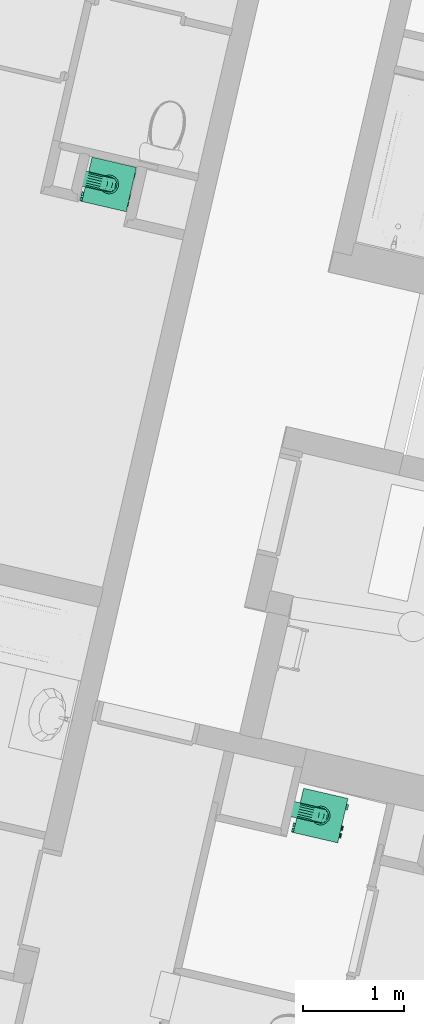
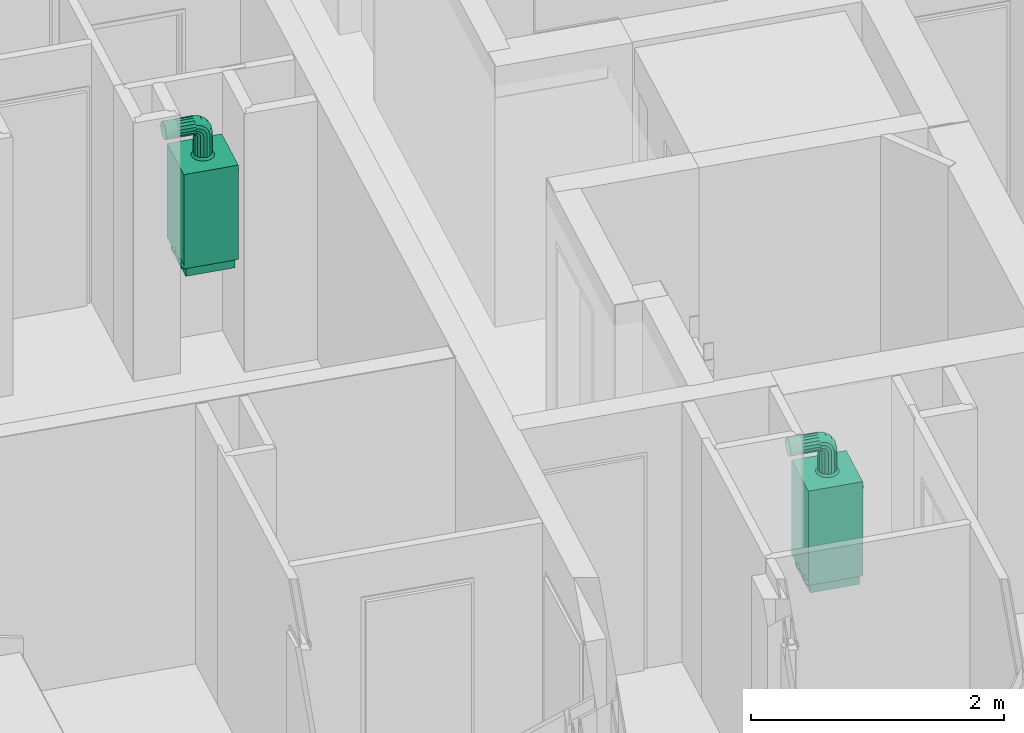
# One storey, part 45 of 62: 2 energy conversion devices.
"""IFC2X3 building model written with IfcOpenShell, lengths in metres."""

from ifc_helpers import new_model, entity, si_unit, converted_unit, derived_unit, money_unit, direction, frame, origin_with_axes, place, context, subcontext, project, spatial, open_shell, faceted_brep, surface_model, source, transform, mapped, type_object, element, save


model = new_model("IFC2X3")

# Units and contexts
model_context = context("Model", 3, precision=1e-05, world=origin_with_axes(), true_north=direction((0.0, 1.0)))
body_context = subcontext(model_context, "Body", "Model", "MODEL_VIEW")
ifc_project = project(units=[si_unit("LENGTHUNIT", "METRE"), si_unit("AREAUNIT", "SQUARE_METRE"), si_unit("VOLUMEUNIT", "CUBIC_METRE"), converted_unit("PLANEANGLEUNIT", "DEGREE", entity("IfcPlaneAngleMeasure", 0.0174532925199), si_unit("PLANEANGLEUNIT", "RADIAN"), dimensions=[0, 0, 0, 0, 0, 0, 0]), si_unit("SOLIDANGLEUNIT", "STERADIAN"), money_unit("EUR"), converted_unit("TIMEUNIT", "Year", entity("IfcTimeMeasure", 31556926.0), si_unit("TIMEUNIT", "SECOND"), dimensions=[0, 0, 1, 0, 0, 0, 0]), si_unit("MASSUNIT", "GRAM", prefix="KILO"), si_unit("THERMODYNAMICTEMPERATUREUNIT", "DEGREE_CELSIUS"), si_unit("LUMINOUSINTENSITYUNIT", "LUMEN"), si_unit("ENERGYUNIT", "JOULE", prefix="MEGA"), derived_unit("THERMALCONDUCTANCEUNIT", [(si_unit("POWERUNIT", "WATT"), 1), (si_unit("LENGTHUNIT", "METRE"), -1), (si_unit("THERMODYNAMICTEMPERATUREUNIT", "KELVIN"), -1)]), derived_unit("SPECIFICHEATCAPACITYUNIT", [(si_unit("ENERGYUNIT", "JOULE"), 1), (si_unit("MASSUNIT", "GRAM", prefix="KILO"), -1), (si_unit("THERMODYNAMICTEMPERATUREUNIT", "KELVIN"), -1)]), derived_unit("MASSDENSITYUNIT", [(si_unit("MASSUNIT", "GRAM", prefix="KILO"), 1), (si_unit("VOLUMEUNIT", "CUBIC_METRE"), -1)])], contexts=[model_context])

# Site, building, storey
site_placement = place(None, origin_with_axes())
site = spatial("IfcSite", under=ifc_project, at=site_placement, Name="Site", CompositionType="ELEMENT")
building_placement = place(site_placement, origin_with_axes())
building = spatial("IfcBuilding", under=site, at=building_placement, Name="Bâtiment", CompositionType="ELEMENT")
storey_placement = place(building_placement, frame((0.0, 0.0, 8.16), z_axis=(0.0, 0.0, 1.0), x_axis=(1.0, 0.0, 0.0)))
storey = spatial("IfcBuildingStorey", under=building, at=storey_placement, Name="R+3", CompositionType="ELEMENT", Elevation=8.16)

# Energy conversion devices
boiler_type = type_object("IfcBoilerType", Name="Chaudière à gaz 23", PredefinedType="WATER")
shared_shape = source(origin_with_axes(), body_context, "Body", "SurfaceModel", [
    surface_model("IfcShellBasedSurfaceModel", [(-0.2, 0.45, 0.090909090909), (-0.2, 0.47, 0.090909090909), (-0.194564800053, 0.47, 0.0916246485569), (-0.194564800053, 0.45, 0.0916246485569), (-0.205435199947, 0.45, 0.0916246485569), (-0.205435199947, 0.47, 0.0916246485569), (-0.1895, 0.47, 0.0937225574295), (-0.1895, 0.45, 0.0937225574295), (-0.2105, 0.45, 0.0937225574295), (-0.2105, 0.47, 0.0937225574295), (-0.185150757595, 0.47, 0.0970598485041), (-0.185150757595, 0.45, 0.0970598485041), (-0.214849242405, 0.45, 0.0970598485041), (-0.214849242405, 0.47, 0.0970598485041), (-0.181813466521, 0.47, 0.101409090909), (-0.181813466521, 0.45, 0.101409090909), (-0.218186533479, 0.45, 0.101409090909), (-0.218186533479, 0.47, 0.101409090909), (-0.179715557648, 0.47, 0.106473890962), (-0.179715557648, 0.45, 0.106473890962), (-0.220284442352, 0.45, 0.106473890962), (-0.220284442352, 0.47, 0.106473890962), (-0.179, 0.47, 0.111909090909), (-0.179, 0.45, 0.111909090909), (-0.221, 0.45, 0.111909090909), (-0.221, 0.47, 0.111909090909), (-0.179715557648, 0.47, 0.117344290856), (-0.179715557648, 0.45, 0.117344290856), (-0.220284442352, 0.45, 0.117344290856), (-0.220284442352, 0.47, 0.117344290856), (-0.181813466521, 0.47, 0.122409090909), (-0.181813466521, 0.45, 0.122409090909), (-0.218186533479, 0.45, 0.122409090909), (-0.218186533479, 0.47, 0.122409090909), (-0.185150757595, 0.47, 0.126758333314), (-0.185150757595, 0.45, 0.126758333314), (-0.214849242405, 0.45, 0.126758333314), (-0.214849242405, 0.47, 0.126758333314), (-0.1895, 0.47, 0.130095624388), (-0.1895, 0.45, 0.130095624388), (-0.2105, 0.45, 0.130095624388), (-0.2105, 0.47, 0.130095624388), (-0.194564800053, 0.47, 0.132193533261), (-0.194564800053, 0.45, 0.132193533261), (-0.205435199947, 0.45, 0.132193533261), (-0.205435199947, 0.47, 0.132193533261), (-0.2, 0.47, 0.132909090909), (-0.2, 0.45, 0.132909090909)], [open_shell([[[0, 1, 2, 3]], [[4, 5, 1, 0]], [[3, 2, 6, 7]], [[8, 9, 5, 4]], [[7, 6, 10, 11]], [[12, 13, 9, 8]], [[11, 10, 14, 15]], [[16, 17, 13, 12]], [[15, 14, 18, 19]], [[20, 21, 17, 16]], [[19, 18, 22, 23]], [[24, 25, 21, 20]], [[23, 22, 26, 27]], [[28, 29, 25, 24]], [[27, 26, 30, 31]], [[32, 33, 29, 28]], [[31, 30, 34, 35]], [[36, 37, 33, 32]], [[35, 34, 38, 39]], [[40, 41, 37, 36]], [[39, 38, 42, 43]], [[44, 45, 41, 40]], [[43, 42, 46, 47]], [[47, 46, 45, 44]]])]),
    surface_model("IfcShellBasedSurfaceModel", [(-0.375, 0.45, 0.090909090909), (-0.375, 0.47, 0.090909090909), (-0.369564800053, 0.47, 0.0916246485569), (-0.369564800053, 0.45, 0.0916246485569), (-0.380435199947, 0.45, 0.0916246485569), (-0.380435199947, 0.47, 0.0916246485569), (-0.3645, 0.47, 0.0937225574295), (-0.3645, 0.45, 0.0937225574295), (-0.3855, 0.45, 0.0937225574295), (-0.3855, 0.47, 0.0937225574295), (-0.360150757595, 0.47, 0.0970598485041), (-0.360150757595, 0.45, 0.0970598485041), (-0.389849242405, 0.45, 0.0970598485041), (-0.389849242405, 0.47, 0.0970598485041), (-0.356813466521, 0.47, 0.101409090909), (-0.356813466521, 0.45, 0.101409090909), (-0.393186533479, 0.45, 0.101409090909), (-0.393186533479, 0.47, 0.101409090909), (-0.354715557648, 0.47, 0.106473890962), (-0.354715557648, 0.45, 0.106473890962), (-0.395284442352, 0.45, 0.106473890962), (-0.395284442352, 0.47, 0.106473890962), (-0.354, 0.47, 0.111909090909), (-0.354, 0.45, 0.111909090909), (-0.396, 0.45, 0.111909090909), (-0.396, 0.47, 0.111909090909), (-0.354715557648, 0.47, 0.117344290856), (-0.354715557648, 0.45, 0.117344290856), (-0.395284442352, 0.45, 0.117344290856), (-0.395284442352, 0.47, 0.117344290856), (-0.356813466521, 0.47, 0.122409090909), (-0.356813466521, 0.45, 0.122409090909), (-0.393186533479, 0.45, 0.122409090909), (-0.393186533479, 0.47, 0.122409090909), (-0.360150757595, 0.47, 0.126758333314), (-0.360150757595, 0.45, 0.126758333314), (-0.389849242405, 0.45, 0.126758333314), (-0.389849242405, 0.47, 0.126758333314), (-0.3645, 0.47, 0.130095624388), (-0.3645, 0.45, 0.130095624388), (-0.3855, 0.45, 0.130095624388), (-0.3855, 0.47, 0.130095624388), (-0.369564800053, 0.47, 0.132193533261), (-0.369564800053, 0.45, 0.132193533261), (-0.380435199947, 0.45, 0.132193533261), (-0.380435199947, 0.47, 0.132193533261), (-0.375, 0.47, 0.132909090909), (-0.375, 0.45, 0.132909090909)], [open_shell([[[0, 1, 2, 3]], [[4, 5, 1, 0]], [[3, 2, 6, 7]], [[8, 9, 5, 4]], [[7, 6, 10, 11]], [[12, 13, 9, 8]], [[11, 10, 14, 15]], [[16, 17, 13, 12]], [[15, 14, 18, 19]], [[20, 21, 17, 16]], [[19, 18, 22, 23]], [[24, 25, 21, 20]], [[23, 22, 26, 27]], [[28, 29, 25, 24]], [[27, 26, 30, 31]], [[32, 33, 29, 28]], [[31, 30, 34, 35]], [[36, 37, 33, 32]], [[35, 34, 38, 39]], [[40, 41, 37, 36]], [[39, 38, 42, 43]], [[44, 45, 41, 40]], [[43, 42, 46, 47]], [[47, 46, 45, 44]]])]),
    surface_model("IfcShellBasedSurfaceModel", [(-0.429, 0.45, 0.090909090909), (-0.429, 0.47, 0.090909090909), (-0.423564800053, 0.47, 0.0916246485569), (-0.423564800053, 0.45, 0.0916246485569), (-0.434435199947, 0.45, 0.0916246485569), (-0.434435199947, 0.47, 0.0916246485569), (-0.4185, 0.47, 0.0937225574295), (-0.4185, 0.45, 0.0937225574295), (-0.4395, 0.45, 0.0937225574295), (-0.4395, 0.47, 0.0937225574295), (-0.414150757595, 0.47, 0.0970598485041), (-0.414150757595, 0.45, 0.0970598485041), (-0.443849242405, 0.45, 0.0970598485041), (-0.443849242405, 0.47, 0.0970598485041), (-0.410813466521, 0.47, 0.101409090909), (-0.410813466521, 0.45, 0.101409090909), (-0.447186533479, 0.45, 0.101409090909), (-0.447186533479, 0.47, 0.101409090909), (-0.408715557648, 0.47, 0.106473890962), (-0.408715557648, 0.45, 0.106473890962), (-0.449284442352, 0.45, 0.106473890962), (-0.449284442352, 0.47, 0.106473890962), (-0.408, 0.47, 0.111909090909), (-0.408, 0.45, 0.111909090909), (-0.45, 0.45, 0.111909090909), (-0.45, 0.47, 0.111909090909), (-0.408715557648, 0.47, 0.117344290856), (-0.408715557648, 0.45, 0.117344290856), (-0.449284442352, 0.45, 0.117344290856), (-0.449284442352, 0.47, 0.117344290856), (-0.410813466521, 0.47, 0.122409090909), (-0.410813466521, 0.45, 0.122409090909), (-0.447186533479, 0.45, 0.122409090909), (-0.447186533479, 0.47, 0.122409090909), (-0.414150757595, 0.47, 0.126758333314), (-0.414150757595, 0.45, 0.126758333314), (-0.443849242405, 0.45, 0.126758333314), (-0.443849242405, 0.47, 0.126758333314), (-0.4185, 0.47, 0.130095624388), (-0.4185, 0.45, 0.130095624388), (-0.4395, 0.45, 0.130095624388), (-0.4395, 0.47, 0.130095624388), (-0.423564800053, 0.47, 0.132193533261), (-0.423564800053, 0.45, 0.132193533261), (-0.434435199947, 0.45, 0.132193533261), (-0.434435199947, 0.47, 0.132193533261), (-0.429, 0.47, 0.132909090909), (-0.429, 0.45, 0.132909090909)], [open_shell([[[0, 1, 2, 3]], [[4, 5, 1, 0]], [[3, 2, 6, 7]], [[8, 9, 5, 4]], [[7, 6, 10, 11]], [[12, 13, 9, 8]], [[11, 10, 14, 15]], [[16, 17, 13, 12]], [[15, 14, 18, 19]], [[20, 21, 17, 16]], [[19, 18, 22, 23]], [[24, 25, 21, 20]], [[23, 22, 26, 27]], [[28, 29, 25, 24]], [[27, 26, 30, 31]], [[32, 33, 29, 28]], [[31, 30, 34, 35]], [[36, 37, 33, 32]], [[35, 34, 38, 39]], [[40, 41, 37, 36]], [[39, 38, 42, 43]], [[44, 45, 41, 40]], [[43, 42, 46, 47]], [[47, 46, 45, 44]]])]),
    surface_model("IfcShellBasedSurfaceModel", [(-0.225, 0.45, 1.218), (-0.225, 0.55, 1.218), (-0.205070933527, 0.55, 1.22062371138), (-0.205070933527, 0.45, 1.22062371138), (-0.244929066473, 0.45, 1.22062371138), (-0.244929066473, 0.55, 1.22062371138), (-0.1865, 0.55, 1.22831604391), (-0.1865, 0.45, 1.22831604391), (-0.2635, 0.45, 1.22831604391), (-0.2635, 0.55, 1.22831604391), (-0.170552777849, 0.55, 1.24055277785), (-0.170552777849, 0.45, 1.24055277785), (-0.279447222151, 0.45, 1.24055277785), (-0.279447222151, 0.55, 1.24055277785), (-0.158316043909, 0.55, 1.2565), (-0.158316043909, 0.45, 1.2565), (-0.291683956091, 0.45, 1.2565), (-0.291683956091, 0.55, 1.2565), (-0.150623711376, 0.55, 1.27507093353), (-0.150623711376, 0.45, 1.27507093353), (-0.299376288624, 0.45, 1.27507093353), (-0.299376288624, 0.55, 1.27507093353), (-0.148, 0.55, 1.295), (-0.148, 0.45, 1.295), (-0.302, 0.45, 1.295), (-0.302, 0.55, 1.295), (-0.150623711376, 0.55, 1.31492906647), (-0.150623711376, 0.45, 1.31492906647), (-0.299376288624, 0.45, 1.31492906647), (-0.299376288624, 0.55, 1.31492906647), (-0.158316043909, 0.55, 1.3335), (-0.158316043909, 0.45, 1.3335), (-0.291683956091, 0.45, 1.3335), (-0.291683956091, 0.55, 1.3335), (-0.170552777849, 0.55, 1.34944722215), (-0.170552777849, 0.45, 1.34944722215), (-0.279447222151, 0.45, 1.34944722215), (-0.279447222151, 0.55, 1.34944722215), (-0.1865, 0.55, 1.36168395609), (-0.1865, 0.45, 1.36168395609), (-0.2635, 0.45, 1.36168395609), (-0.2635, 0.55, 1.36168395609), (-0.205070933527, 0.55, 1.36937628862), (-0.205070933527, 0.45, 1.36937628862), (-0.244929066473, 0.45, 1.36937628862), (-0.244929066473, 0.55, 1.36937628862), (-0.225, 0.55, 1.372), (-0.225, 0.45, 1.372)], [open_shell([[[0, 1, 2, 3]], [[4, 5, 1, 0]], [[3, 2, 6, 7]], [[8, 9, 5, 4]], [[7, 6, 10, 11]], [[12, 13, 9, 8]], [[11, 10, 14, 15]], [[16, 17, 13, 12]], [[15, 14, 18, 19]], [[20, 21, 17, 16]], [[19, 18, 22, 23]], [[24, 25, 21, 20]], [[23, 22, 26, 27]], [[28, 29, 25, 24]], [[27, 26, 30, 31]], [[32, 33, 29, 28]], [[31, 30, 34, 35]], [[36, 37, 33, 32]], [[35, 34, 38, 39]], [[40, 41, 37, 36]], [[39, 38, 42, 43]], [[44, 45, 41, 40]], [[43, 42, 46, 47]], [[47, 46, 45, 44]]])]),
    faceted_brep([(-0.4275, 0.0225, 0.0), (-0.4275, 0.4275, 0.0), (-0.0225, 0.4275, 0.0), (-0.0225, 0.0225, 0.0), (-0.4275, 0.0225, 0.0909090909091), (-0.4275, 0.4275, 0.0909090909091), (-0.0225, 0.4275, 0.0909090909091), (-0.0225, 0.0225, 0.0909090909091)], [[[0, 1, 2, 3]], [[0, 4, 5, 1]], [[1, 5, 6, 2]], [[2, 6, 7, 3]], [[3, 7, 4, 0]], [[7, 6, 5, 4]]]),
    faceted_brep([(0.0, 0.45, 0.0909090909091), (-0.45, 0.45, 0.0909090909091), (-0.45, 0.45, 1.0), (0.0, 0.45, 1.0), (0.0, 0.0, 0.0909090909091), (-0.45, 0.0, 0.0909090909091), (-0.45, 0.0, 0.818181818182), (-0.45, 0.0225, 0.818181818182), (-0.45, 0.0225, 1.0), (0.0, 0.0225, 1.0), (0.0, 0.0225, 0.818181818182), (0.0, 0.0, 0.818181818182)], [[[0, 1, 2, 3]], [[4, 5, 1, 0]], [[1, 5, 6, 7, 8, 2]], [[3, 2, 8, 9]], [[0, 3, 9, 10, 11, 4]], [[11, 6, 5, 4]], [[10, 7, 6, 11]], [[9, 8, 7, 10]]]),
    faceted_brep([(-0.45, 0.0, 0.818181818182), (-0.45, 0.0225, 0.818181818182), (0.0, 0.0225, 0.818181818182), (0.0, 0.0, 0.818181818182), (-0.45, 0.0, 1.0), (-0.45, 0.0225, 1.0), (0.0, 0.0225, 1.0), (0.0, 0.0, 1.0)], [[[0, 1, 2, 3]], [[0, 4, 5, 1]], [[1, 5, 6, 2]], [[2, 6, 7, 3]], [[3, 7, 4, 0]], [[7, 6, 5, 4]]]),
    faceted_brep([(-0.32349231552, 0.0, 0.900540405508), (-0.325, 0.0, 0.909090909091), (-0.32349231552, 0.0, 0.917641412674), (-0.319151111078, 0.0, 0.925160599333), (-0.3125, 0.0, 0.930741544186), (-0.304341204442, 0.0, 0.933711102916), (-0.295658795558, 0.0, 0.933711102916), (-0.2875, 0.0, 0.930741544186), (-0.280848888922, 0.0, 0.925160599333), (-0.27650768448, 0.0, 0.917641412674), (-0.275, 0.0, 0.909090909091), (-0.27650768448, 0.0, 0.900540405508), (-0.280848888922, 0.0, 0.893021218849), (-0.2875, 0.0, 0.887440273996), (-0.295658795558, 0.0, 0.884470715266), (-0.304341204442, 0.0, 0.884470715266), (-0.3125, 0.0, 0.887440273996), (-0.319151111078, 0.0, 0.893021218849), (-0.32349231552, -0.02, 0.900540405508), (-0.325, -0.02, 0.909090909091), (-0.32349231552, -0.02, 0.917641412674), (-0.319151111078, -0.02, 0.925160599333), (-0.3125, -0.02, 0.930741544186), (-0.304341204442, -0.02, 0.933711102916), (-0.295658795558, -0.02, 0.933711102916), (-0.2875, -0.02, 0.930741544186), (-0.280848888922, -0.02, 0.925160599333), (-0.27650768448, -0.02, 0.917641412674), (-0.275, -0.02, 0.909090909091), (-0.27650768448, -0.02, 0.900540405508), (-0.280848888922, -0.02, 0.893021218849), (-0.2875, -0.02, 0.887440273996), (-0.295658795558, -0.02, 0.884470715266), (-0.304341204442, -0.02, 0.884470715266), (-0.3125, -0.02, 0.887440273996), (-0.319151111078, -0.02, 0.893021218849)], [[[0, 1, 2, 3, 4, 5, 6, 7, 8, 9, 10, 11, 12, 13, 14, 15, 16, 17]], [[0, 18, 19, 1]], [[1, 19, 20, 2]], [[2, 20, 21, 3]], [[3, 21, 22, 4]], [[4, 22, 23, 5]], [[5, 23, 24, 6]], [[6, 24, 25, 7]], [[7, 25, 26, 8]], [[8, 26, 27, 9]], [[9, 27, 28, 10]], [[10, 28, 29, 11]], [[11, 29, 30, 12]], [[12, 30, 31, 13]], [[13, 31, 32, 14]], [[14, 32, 33, 15]], [[15, 33, 34, 16]], [[16, 34, 35, 17]], [[17, 35, 18, 0]], [[18, 35, 34, 33, 32, 31, 30, 29, 28, 27, 26, 25, 24, 23, 22, 21, 20, 19]]]),
    faceted_brep([(-0.39849231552, 0.0, 0.900540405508), (-0.4, 0.0, 0.909090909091), (-0.39849231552, 0.0, 0.917641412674), (-0.394151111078, 0.0, 0.925160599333), (-0.3875, 0.0, 0.930741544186), (-0.379341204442, 0.0, 0.933711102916), (-0.370658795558, 0.0, 0.933711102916), (-0.3625, 0.0, 0.930741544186), (-0.355848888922, 0.0, 0.925160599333), (-0.35150768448, 0.0, 0.917641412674), (-0.35, 0.0, 0.909090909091), (-0.35150768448, 0.0, 0.900540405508), (-0.355848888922, 0.0, 0.893021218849), (-0.3625, 0.0, 0.887440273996), (-0.370658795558, 0.0, 0.884470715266), (-0.379341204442, 0.0, 0.884470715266), (-0.3875, 0.0, 0.887440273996), (-0.394151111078, 0.0, 0.893021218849), (-0.39849231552, -0.02, 0.900540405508), (-0.4, -0.02, 0.909090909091), (-0.39849231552, -0.02, 0.917641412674), (-0.394151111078, -0.02, 0.925160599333), (-0.3875, -0.02, 0.930741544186), (-0.379341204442, -0.02, 0.933711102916), (-0.370658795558, -0.02, 0.933711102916), (-0.3625, -0.02, 0.930741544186), (-0.355848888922, -0.02, 0.925160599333), (-0.35150768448, -0.02, 0.917641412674), (-0.35, -0.02, 0.909090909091), (-0.35150768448, -0.02, 0.900540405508), (-0.355848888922, -0.02, 0.893021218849), (-0.3625, -0.02, 0.887440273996), (-0.370658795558, -0.02, 0.884470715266), (-0.379341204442, -0.02, 0.884470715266), (-0.3875, -0.02, 0.887440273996), (-0.394151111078, -0.02, 0.893021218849)], [[[0, 1, 2, 3, 4, 5, 6, 7, 8, 9, 10, 11, 12, 13, 14, 15, 16, 17]], [[0, 18, 19, 1]], [[1, 19, 20, 2]], [[2, 20, 21, 3]], [[3, 21, 22, 4]], [[4, 22, 23, 5]], [[5, 23, 24, 6]], [[6, 24, 25, 7]], [[7, 25, 26, 8]], [[8, 26, 27, 9]], [[9, 27, 28, 10]], [[10, 28, 29, 11]], [[11, 29, 30, 12]], [[12, 30, 31, 13]], [[13, 31, 32, 14]], [[14, 32, 33, 15]], [[15, 33, 34, 16]], [[16, 34, 35, 17]], [[17, 35, 18, 0]], [[18, 35, 34, 33, 32, 31, 30, 29, 28, 27, 26, 25, 24, 23, 22, 21, 20, 19]]]),
    faceted_brep([(-0.1125, 0.0, 0.878787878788), (-0.1125, 0.0, 0.939393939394), (-0.05625, 0.0, 0.939393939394), (-0.05625, 0.0, 0.878787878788), (-0.1125, -0.02, 0.878787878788), (-0.1125, -0.02, 0.939393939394), (-0.05625, -0.02, 0.939393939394), (-0.05625, -0.02, 0.878787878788)], [[[0, 1, 2, 3]], [[0, 4, 5, 1]], [[1, 5, 6, 2]], [[2, 6, 7, 3]], [[3, 7, 4, 0]], [[7, 6, 5, 4]]]),
    surface_model("IfcShellBasedSurfaceModel", [(-0.198664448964, 0.297356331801, 1.22), (-0.198664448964, 0.297356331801, 1.02), (-0.225, 0.302, 1.02), (-0.225, 0.302, 1.22), (-0.175505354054, 0.28398542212, 1.22), (-0.175505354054, 0.28398542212, 1.02), (-0.192935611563, 0.313096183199, 1.0), (-0.225, 0.31875, 1.0), (-0.251335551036, 0.297356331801, 1.02), (-0.251335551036, 0.297356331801, 1.22), (-0.158316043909, 0.2635, 1.22), (-0.158316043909, 0.2635, 1.02), (-0.164738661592, 0.296816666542, 1.0), (-0.257064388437, 0.313096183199, 1.0), (-0.274494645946, 0.28398542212, 1.02), (-0.274494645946, 0.28398542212, 1.22), (-0.149169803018, 0.23837090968, 1.22), (-0.149169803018, 0.23837090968, 1.02), (-0.143810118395, 0.271875, 1.0), (-0.285261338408, 0.296816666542, 1.0), (-0.291683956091, 0.2635, 1.02), (-0.291683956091, 0.2635, 1.22), (-0.149169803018, 0.21162909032, 1.22), (-0.149169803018, 0.21162909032, 1.02), (-0.132674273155, 0.241279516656, 1.0), (-0.306189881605, 0.271875, 1.0), (-0.300830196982, 0.23837090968, 1.02), (-0.300830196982, 0.23837090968, 1.22), (-0.158316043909, 0.1865, 1.22), (-0.158316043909, 0.1865, 1.02), (-0.132674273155, 0.208720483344, 1.0), (-0.317325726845, 0.241279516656, 1.0), (-0.300830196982, 0.21162909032, 1.02), (-0.300830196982, 0.21162909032, 1.22), (-0.175505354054, 0.16601457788, 1.22), (-0.175505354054, 0.16601457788, 1.02), (-0.143810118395, 0.178125, 1.0), (-0.317325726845, 0.208720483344, 1.0), (-0.291683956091, 0.1865, 1.02), (-0.291683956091, 0.1865, 1.22), (-0.198664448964, 0.152643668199, 1.22), (-0.198664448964, 0.152643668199, 1.02), (-0.164738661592, 0.153183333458, 1.0), (-0.306189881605, 0.178125, 1.0), (-0.274494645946, 0.16601457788, 1.02), (-0.274494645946, 0.16601457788, 1.22), (-0.225, 0.148, 1.22), (-0.225, 0.148, 1.02), (-0.192935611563, 0.136903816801, 1.0), (-0.285261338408, 0.153183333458, 1.0), (-0.251335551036, 0.152643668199, 1.02), (-0.251335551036, 0.152643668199, 1.22), (-0.225, 0.13125, 1.0), (-0.257064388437, 0.136903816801, 1.0)], [open_shell([[[0, 1, 2, 3]], [[4, 5, 1, 0]], [[1, 6, 7, 2]], [[3, 2, 8, 9]], [[10, 11, 5, 4]], [[5, 12, 6, 1]], [[2, 7, 13, 8]], [[9, 8, 14, 15]], [[16, 17, 11, 10]], [[11, 18, 12, 5]], [[8, 13, 19, 14]], [[15, 14, 20, 21]], [[22, 23, 17, 16]], [[17, 24, 18, 11]], [[14, 19, 25, 20]], [[21, 20, 26, 27]], [[28, 29, 23, 22]], [[23, 30, 24, 17]], [[20, 25, 31, 26]], [[27, 26, 32, 33]], [[34, 35, 29, 28]], [[29, 36, 30, 23]], [[26, 31, 37, 32]], [[33, 32, 38, 39]], [[40, 41, 35, 34]], [[35, 42, 36, 29]], [[32, 37, 43, 38]], [[39, 38, 44, 45]], [[46, 47, 41, 40]], [[41, 48, 42, 35]], [[38, 43, 49, 44]], [[45, 44, 50, 51]], [[51, 50, 47, 46]], [[47, 52, 48, 41]], [[44, 49, 53, 50]], [[50, 53, 52, 47]]])]),
    faceted_brep([(-0.300830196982, 0.218508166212, 1.2545834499), (-0.300830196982, 0.21162909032, 1.22), (-0.291683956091, 0.1865, 1.22), (-0.291683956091, 0.195291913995, 1.26419993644), (-0.300830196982, 0.243214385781, 1.24434979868), (-0.300830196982, 0.23837090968, 1.22), (-0.291683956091, 0.2635, 1.22), (-0.274494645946, 0.28398542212, 1.22), (-0.251335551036, 0.297356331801, 1.22), (-0.225, 0.302, 1.22), (-0.198664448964, 0.297356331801, 1.22), (-0.175505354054, 0.28398542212, 1.22), (-0.158316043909, 0.2635, 1.22), (-0.149169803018, 0.23837090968, 1.22), (-0.149169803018, 0.21162909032, 1.22), (-0.158316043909, 0.1865, 1.22), (-0.175505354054, 0.16601457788, 1.22), (-0.198664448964, 0.152643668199, 1.22), (-0.225, 0.148, 1.22), (-0.251335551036, 0.152643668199, 1.22), (-0.274494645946, 0.16601457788, 1.22), (-0.274494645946, 0.176365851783, 1.27203936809), (-0.300830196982, 0.238098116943, 1.28390188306), (-0.291683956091, 0.220329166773, 1.30167083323), (-0.300830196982, 0.257007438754, 1.26499256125), (-0.291683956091, 0.266430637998, 1.23473331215), (-0.274494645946, 0.28535670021, 1.2268938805), (-0.251335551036, 0.297709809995, 1.22177705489), (-0.198664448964, 0.297709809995, 1.22177705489), (-0.175505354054, 0.28535670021, 1.2268938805), (-0.158316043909, 0.266430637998, 1.23473331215), (-0.149169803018, 0.243214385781, 1.24434979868), (-0.149169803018, 0.218508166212, 1.2545834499), (-0.158316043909, 0.195291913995, 1.26419993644), (-0.175505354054, 0.176365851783, 1.27203936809), (-0.198664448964, 0.164012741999, 1.2771561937), (-0.225, 0.159722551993, 1.27893324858), (-0.251335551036, 0.164012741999, 1.2771561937), (-0.274494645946, 0.205843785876, 1.31615621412), (-0.291683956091, 0.257800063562, 1.32670808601), (-0.300830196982, 0.267416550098, 1.30349183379), (-0.300830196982, 0.277650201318, 1.27878561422), (-0.291683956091, 0.274776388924, 1.24722361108), (-0.274494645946, 0.289261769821, 1.23273823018), (-0.251335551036, 0.298716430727, 1.22328356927), (-0.198664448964, 0.298716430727, 1.22328356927), (-0.175505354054, 0.289261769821, 1.23273823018), (-0.158316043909, 0.274776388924, 1.24722361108), (-0.149169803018, 0.257007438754, 1.26499256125), (-0.149169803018, 0.238098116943, 1.28390188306), (-0.158316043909, 0.220329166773, 1.30167083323), (-0.175505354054, 0.205843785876, 1.31615621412), (-0.198664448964, 0.196389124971, 1.32561087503), (-0.225, 0.193105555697, 1.3288944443), (-0.251335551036, 0.196389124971, 1.32561087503), (-0.274494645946, 0.249960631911, 1.34563414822), (-0.291683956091, 0.302, 1.3355), (-0.300830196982, 0.302, 1.31037090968), (-0.300830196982, 0.302, 1.28362909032), (-0.291683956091, 0.287266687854, 1.255569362), (-0.274494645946, 0.295106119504, 1.23664329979), (-0.251335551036, 0.300222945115, 1.22429019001), (-0.198664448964, 0.300222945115, 1.22429019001), (-0.175505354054, 0.295106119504, 1.23664329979), (-0.158316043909, 0.287266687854, 1.255569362), (-0.149169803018, 0.277650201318, 1.27878561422), (-0.149169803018, 0.267416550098, 1.30349183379), (-0.158316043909, 0.257800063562, 1.32670808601), (-0.175505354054, 0.249960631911, 1.34563414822), (-0.198664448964, 0.244843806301, 1.357987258), (-0.225, 0.243066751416, 1.36227744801), (-0.251335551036, 0.244843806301, 1.357987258), (-0.274494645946, 0.302, 1.35598542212), (-0.291683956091, 0.302, 1.2585), (-0.251335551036, 0.302, 1.3693563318), (-0.225, 0.302, 1.374), (-0.198664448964, 0.302, 1.3693563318), (-0.175505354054, 0.302, 1.35598542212), (-0.158316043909, 0.302, 1.3355), (-0.149169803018, 0.302, 1.31037090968), (-0.149169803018, 0.302, 1.28362909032), (-0.158316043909, 0.302, 1.2585), (-0.175505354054, 0.302, 1.23801457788), (-0.198664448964, 0.302, 1.2246436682), (-0.251335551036, 0.302, 1.2246436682), (-0.274494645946, 0.302, 1.23801457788)], [[[0, 1, 2, 3]], [[1, 0, 4, 5]], [[2, 1, 5, 6, 7, 8, 9, 10, 11, 12, 13, 14, 15, 16, 17, 18, 19, 20]], [[3, 2, 20, 21]], [[22, 0, 3, 23]], [[0, 22, 24, 4]], [[6, 5, 4, 25]], [[26, 7, 6, 25]], [[7, 26, 27, 8]], [[8, 27, 9]], [[28, 10, 9]], [[10, 28, 29, 11]], [[30, 12, 11, 29]], [[12, 30, 31, 13]], [[32, 14, 13, 31]], [[15, 14, 32, 33]], [[34, 16, 15, 33]], [[17, 16, 34, 35]], [[36, 18, 17, 35]], [[19, 18, 36, 37]], [[21, 20, 19, 37]], [[23, 3, 21, 38]], [[22, 23, 39, 40]], [[24, 22, 40, 41]], [[4, 24, 42, 25]], [[43, 26, 25, 42]], [[26, 43, 44, 27]], [[27, 44, 9]], [[45, 28, 9]], [[28, 45, 46, 29]], [[29, 46, 47, 30]], [[31, 30, 47, 48]], [[49, 32, 31, 48]], [[32, 49, 50, 33]], [[51, 34, 33, 50]], [[35, 34, 51, 52]], [[53, 36, 35, 52]], [[54, 37, 36, 53]], [[38, 21, 37, 54]], [[39, 23, 38, 55]], [[40, 39, 56, 57]], [[41, 40, 57, 58]], [[59, 42, 24, 41]], [[42, 59, 60, 43]], [[43, 60, 61, 44]], [[44, 61, 9]], [[62, 45, 9]], [[45, 62, 63, 46]], [[46, 63, 64, 47]], [[47, 64, 65, 48]], [[66, 49, 48, 65]], [[50, 49, 66, 67]], [[68, 51, 50, 67]], [[52, 51, 68, 69]], [[53, 52, 69, 70]], [[71, 54, 53, 70]], [[55, 38, 54, 71]], [[56, 39, 55, 72]], [[73, 58, 57, 56, 72, 74, 75, 76, 77, 78, 79, 80, 81, 82, 83, 9, 84, 85]], [[59, 41, 58, 73]], [[59, 73, 85, 60]], [[60, 85, 84, 61]], [[61, 84, 9]], [[62, 9, 83]], [[63, 62, 83, 82]], [[63, 82, 81, 64]], [[65, 64, 81, 80]], [[66, 65, 80, 79]], [[67, 66, 79, 78]], [[77, 68, 67, 78]], [[69, 68, 77, 76]], [[75, 70, 69, 76]], [[71, 70, 75, 74]], [[72, 55, 71, 74]]]),
    surface_model("IfcShellBasedSurfaceModel", [(-0.152643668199, 0.45, 1.32333555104), (-0.152643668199, 0.302, 1.32333555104), (-0.148, 0.302, 1.297), (-0.148, 0.45, 1.297), (-0.16601457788, 0.45, 1.34649464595), (-0.16601457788, 0.302, 1.34649464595), (-0.152643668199, 0.302, 1.27066444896), (-0.152643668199, 0.45, 1.27066444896), (-0.1865, 0.45, 1.36368395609), (-0.1865, 0.302, 1.36368395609), (-0.16601457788, 0.302, 1.24750535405), (-0.16601457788, 0.45, 1.24750535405), (-0.21162909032, 0.45, 1.37283019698), (-0.21162909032, 0.302, 1.37283019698), (-0.1865, 0.302, 1.23031604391), (-0.1865, 0.45, 1.23031604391), (-0.23837090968, 0.45, 1.37283019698), (-0.23837090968, 0.302, 1.37283019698), (-0.21162909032, 0.302, 1.22116980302), (-0.21162909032, 0.45, 1.22116980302), (-0.2635, 0.45, 1.36368395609), (-0.2635, 0.302, 1.36368395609), (-0.23837090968, 0.302, 1.22116980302), (-0.23837090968, 0.45, 1.22116980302), (-0.28398542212, 0.45, 1.34649464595), (-0.28398542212, 0.302, 1.34649464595), (-0.2635, 0.302, 1.23031604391), (-0.2635, 0.45, 1.23031604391), (-0.297356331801, 0.45, 1.32333555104), (-0.297356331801, 0.302, 1.32333555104), (-0.28398542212, 0.302, 1.24750535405), (-0.28398542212, 0.45, 1.24750535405), (-0.302, 0.45, 1.297), (-0.302, 0.302, 1.297), (-0.297356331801, 0.302, 1.27066444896), (-0.297356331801, 0.45, 1.27066444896)], [open_shell([[[0, 1, 2, 3]], [[4, 5, 1, 0]], [[3, 2, 6, 7]], [[8, 9, 5, 4]], [[7, 6, 10, 11]], [[12, 13, 9, 8]], [[11, 10, 14, 15]], [[16, 17, 13, 12]], [[15, 14, 18, 19]], [[20, 21, 17, 16]], [[19, 18, 22, 23]], [[24, 25, 21, 20]], [[23, 22, 26, 27]], [[28, 29, 25, 24]], [[27, 26, 30, 31]], [[32, 33, 29, 28]], [[31, 30, 34, 35]], [[35, 34, 33, 32]]])]),
])
for number, where, z_axis, x_axis, name in (
    (1, (-10.1749965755, -9.38679948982, 0.9), (0.0, 0.0, 1.0), (0.224876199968, 0.974387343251, 0.0), "MOB-002"),
    (2, (-12.2661064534, -3.1479817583, 0.9), (0.0, 0.0, 1.0), (0.224876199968, 0.974387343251, 0.0), "MOB-002"),
):
    element("IfcEnergyConversionDevice", number, at=place(storey_placement, frame(where, z_axis=z_axis, x_axis=x_axis)), inside=storey, type_object=boiler_type, Name=name, context=body_context, shape_type="MappedRepresentation", body=[
        mapped(shared_shape, transform((0.0, 0.0, 0.0))),
    ])

save(model, "model.ifc")
